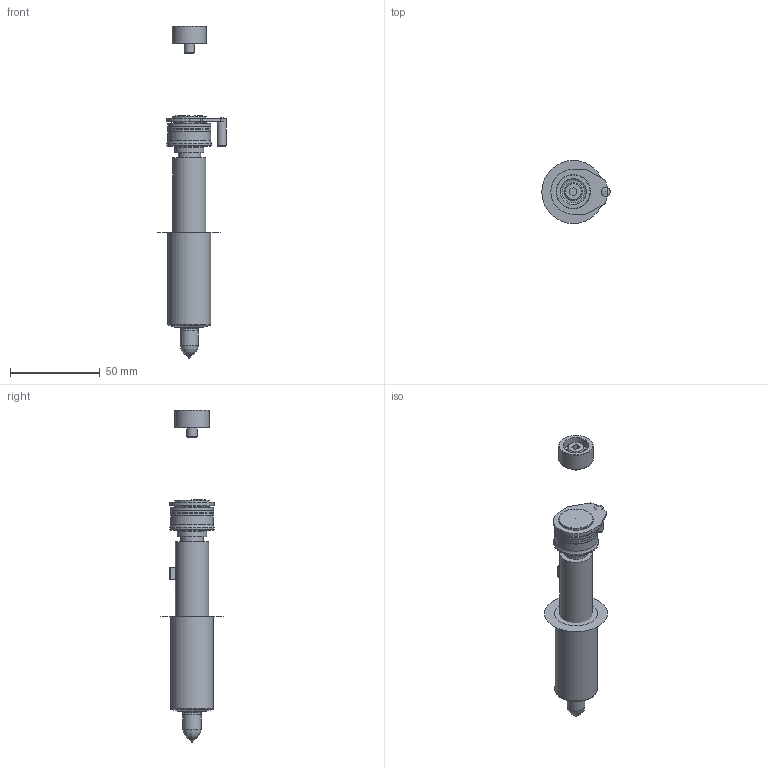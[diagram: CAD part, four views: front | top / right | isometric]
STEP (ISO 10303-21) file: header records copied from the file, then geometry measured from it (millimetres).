
FILE_DESCRIPTION(/* description */ (''),/* implementation_level */ '2;1');
FILE_NAME(/* name */ 'U500 HT-DX.stp',/* time_stamp */ '2021-12-22T14:05:28+08:00',/* author */ (''),/* organization */ (''),/* preprocessor_version */ 'ST-DEVELOPER v16',/* originating_system */ 'SIEMENS PLM Software NX 11.0',/* authorisation */ '');
FILE_SCHEMA (('AP203_CONFIGURATION_CONTROLLED_3D_DESIGN_OF_MECHANICAL_PARTS_AND_ASSEMBLIES_MIM_LF { 1 0 10303 403 2 1 2}'));
Length unit declared in the file: millimetre
Products named in the file (19): 3D_EXPORT_3D_ASSY_11312477_0_id6_x_t; 3D_EXPORT_3D_ASSY_11312477_0_id11_x_t; 3D_EXPORT_3D_ASSY_11312477_0_id16_x_t; 3D_EXPORT_3D_ASSY_11312477_0_id25_x_t; 3D_EXPORT_3D_ASSY_11312477_0_id30_x_t; 3D_EXPORT_3D_ASSY_11312477_0_id35_x_t; 3D_EXPORT_3D_ASSY_11312477_0_id40_x_t; 3D_EXPORT_3D_ASSY_11312477_0_id45_x_t; 3D_EXPORT_3D_ASSY_11312477_0_id54_x_t; 3D_EXPORT_3D_ASSY_11312477_0_id59_x_t; 3D_EXPORT_3D_ASSY_11312477_0_id64_x_t; 3D_EXPORT_3D_ASSY_11312477_0_id69_x_t; 3D_EXPORT_3D_ASSY_11312477_0_id76_x_t; 3D_EXPORT_3D_ASSY_11312477_0_id81_x_t; 3D_EXPORT_3D_ASSY_11312477_0_id86_x_t; 3D_EXPORT_3D_ASSY_11312477_0_id91_x_t; 3D_EXPORT_3D_ASSY_11312477_0_id96_x_t; 3D_EXPORT_3D_ASSY_11312477_0_id101_x_t; 3D_EXPORT_3D_ASSY_11312477_0_x_t
Assembly tree (23 placements, depth 2):
  3D_EXPORT_3D_ASSY_11312477_0_x_t
    3D_EXPORT_3D_ASSY_11312477_0_id101_x_t
    3D_EXPORT_3D_ASSY_11312477_0_id96_x_t
    3D_EXPORT_3D_ASSY_11312477_0_id91_x_t
    3D_EXPORT_3D_ASSY_11312477_0_id86_x_t
    3D_EXPORT_3D_ASSY_11312477_0_id81_x_t
    3D_EXPORT_3D_ASSY_11312477_0_id76_x_t
    3D_EXPORT_3D_ASSY_11312477_0_id69_x_t  x2
    3D_EXPORT_3D_ASSY_11312477_0_id64_x_t
    3D_EXPORT_3D_ASSY_11312477_0_id59_x_t
    3D_EXPORT_3D_ASSY_11312477_0_id54_x_t
    3D_EXPORT_3D_ASSY_11312477_0_id45_x_t  x3
    3D_EXPORT_3D_ASSY_11312477_0_id40_x_t
    3D_EXPORT_3D_ASSY_11312477_0_id35_x_t
    3D_EXPORT_3D_ASSY_11312477_0_id30_x_t
    3D_EXPORT_3D_ASSY_11312477_0_id25_x_t
    3D_EXPORT_3D_ASSY_11312477_0_id16_x_t  x3
    3D_EXPORT_3D_ASSY_11312477_0_id11_x_t
    3D_EXPORT_3D_ASSY_11312477_0_id6_x_t
Bounding box: 38 x 35 x 184.56 mm (x, y, z)
Volume: 64889.5 mm3; surface area: 32351.8 mm2
Topology: 23 solids, 23 shells, 229 faces, 450 edges, 283 vertices
Faces by surface type: plane 103, cylinder 66, cone 30, torus 27, sphere 2, bspline 1
Full cylindrical faces by diameter (mm): 0.4 x1, 1 x2, 5 x1, 5.5 x1, 5.795 x1, 6 x1, 7.4 x1, 7.48 x1, 7.5 x1, 8.944 x1, 9 x1, 9.8 x1, 10 x1, 10.007 x1, 10.012 x1, 11.86 x1, 12.5 x1, 12.568 x1, 12.66 x1, 12.715 x1, 12.735 x1, 12.76 x1, 13.005 x3, 13.23 x1, 13.725 x2, 14.5 x1, 16.307 x3, 17.125 x2, 17.62 x1, 18.4 x1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
Entity records: 8618 total; most frequent: CARTESIAN_POINT 923, DIRECTION 916, ORIENTED_EDGE 594, AXIS2_PLACEMENT_3D 406, EDGE_LOOP 320, EDGE_CURVE 297, VERTEX_POINT 238, FACE_BOUND 230
